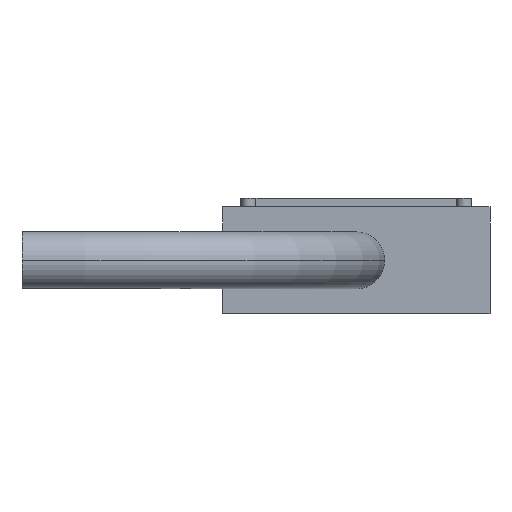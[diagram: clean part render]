
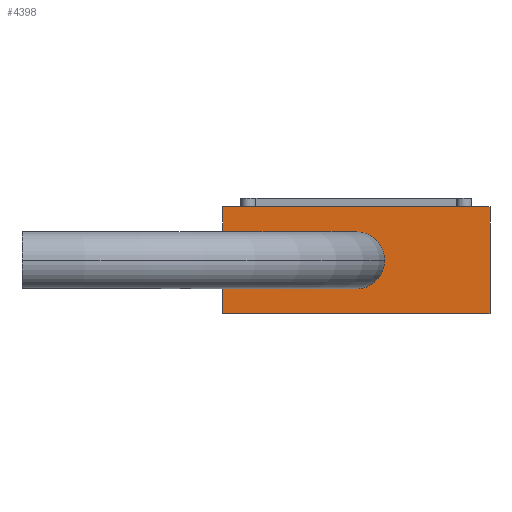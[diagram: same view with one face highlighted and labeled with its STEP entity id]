
A CAD part, front view. The second image highlights one B-rep face of the part: STEP entity #4398.
In plain terms, the highlighted planar face has unit normal (0, -1, 0).
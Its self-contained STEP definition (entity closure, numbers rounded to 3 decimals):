
#79 = ORIENTED_EDGE ( 'NONE', *, *, #4466, .F. ) ;
#80 = ORIENTED_EDGE ( 'NONE', *, *, #4508, .F. ) ;
#81 = ORIENTED_EDGE ( 'NONE', *, *, #4247, .F. ) ;
#82 = ORIENTED_EDGE ( 'NONE', *, *, #4513, .F. ) ;
#83 = ORIENTED_EDGE ( 'NONE', *, *, #4465, .F. ) ;
#84 = ORIENTED_EDGE ( 'NONE', *, *, #4467, .F. ) ;
#367 = EDGE_LOOP ( 'NONE', ( #83, #81 ) ) ;
#368 = EDGE_LOOP ( 'NONE', ( #84, #80, #79, #82 ) ) ;
#532 = VERTEX_POINT ( 'NONE', #1140 ) ;
#533 = VERTEX_POINT ( 'NONE', #1141 ) ;
#620 = VERTEX_POINT ( 'NONE', #1228 ) ;
#621 = VERTEX_POINT ( 'NONE', #1229 ) ;
#624 = VERTEX_POINT ( 'NONE', #1232 ) ;
#625 = VERTEX_POINT ( 'NONE', #1233 ) ;
#1140 = CARTESIAN_POINT ( 'NONE',  ( 4.25, 0., 0. ) ) ;
#1141 = CARTESIAN_POINT ( 'NONE',  ( -4.25, 0., 0. ) ) ;
#1228 = CARTESIAN_POINT ( 'NONE',  ( 20., 0., -8. ) ) ;
#1229 = CARTESIAN_POINT ( 'NONE',  ( -20., 0., -8. ) ) ;
#1232 = CARTESIAN_POINT ( 'NONE',  ( -20., 0., 8. ) ) ;
#1233 = CARTESIAN_POINT ( 'NONE',  ( 20., 0., 8. ) ) ;
#1875 = CARTESIAN_POINT ( 'NONE',  ( 0., 0., 0. ) ) ;
#1876 = DIRECTION ( 'NONE',  ( 0., -1., 0. ) ) ;
#1877 = DIRECTION ( 'NONE',  ( 0., 0., -1. ) ) ;
#1998 = VECTOR ( 'NONE', #3479, 1000. ) ;
#2024 = AXIS2_PLACEMENT_3D ( 'NONE', #3440, #3471, #3472 ) ;
#2084 = VECTOR ( 'NONE', #3602, 1000. ) ;
#2085 = VECTOR ( 'NONE', #3617, 1000. ) ;
#2170 = VECTOR ( 'NONE', #3476, 1000. ) ;
#2269 = FACE_BOUND ( 'NONE', #367, .T. ) ;
#2278 = AXIS2_PLACEMENT_3D ( 'NONE', #3253, #3254, #3255 ) ;
#2279 = FACE_OUTER_BOUND ( 'NONE', #368, .T. ) ;
#2610 = AXIS2_PLACEMENT_3D ( 'NONE', #1875, #1876, #1877 ) ;
#3252 = PLANE ( 'NONE',  #2278 ) ;
#3253 = CARTESIAN_POINT ( 'NONE',  ( 0., 0., 0. ) ) ;
#3254 = DIRECTION ( 'NONE',  ( 0., -1., 0. ) ) ;
#3255 = DIRECTION ( 'NONE',  ( 0., 0., -1. ) ) ;
#3440 = CARTESIAN_POINT ( 'NONE',  ( 0., 0., 0. ) ) ;
#3471 = DIRECTION ( 'NONE',  ( 0., -1., 0. ) ) ;
#3472 = DIRECTION ( 'NONE',  ( 0., 0., -1. ) ) ;
#3474 = LINE ( 'NONE', #3475, #2170 ) ;
#3475 = CARTESIAN_POINT ( 'NONE',  ( -20., 0., 8. ) ) ;
#3476 = DIRECTION ( 'NONE',  ( 0., 0., 1. ) ) ;
#3477 = LINE ( 'NONE', #3478, #1998 ) ;
#3478 = CARTESIAN_POINT ( 'NONE',  ( 20., 0., 8. ) ) ;
#3479 = DIRECTION ( 'NONE',  ( 0., 0., -1. ) ) ;
#3600 = LINE ( 'NONE', #3601, #2084 ) ;
#3601 = CARTESIAN_POINT ( 'NONE',  ( -20., 0., 8. ) ) ;
#3602 = DIRECTION ( 'NONE',  ( 1., 0., 0. ) ) ;
#3615 = LINE ( 'NONE', #3616, #2085 ) ;
#3616 = CARTESIAN_POINT ( 'NONE',  ( -20., 0., -8. ) ) ;
#3617 = DIRECTION ( 'NONE',  ( -1., 0., 0. ) ) ;
#4030 = CIRCLE ( 'NONE', #2024, 4.25 ) ;
#4058 = CIRCLE ( 'NONE', #2610, 4.25 ) ;
#4247 = EDGE_CURVE ( 'NONE', #532, #533, #4058, .T. ) ;
#4398 = ADVANCED_FACE ( 'NONE', ( #2269, #2279 ), #3252, .T. ) ;
#4465 = EDGE_CURVE ( 'NONE', #533, #532, #4030, .T. ) ;
#4466 = EDGE_CURVE ( 'NONE', #621, #624, #3474, .T. ) ;
#4467 = EDGE_CURVE ( 'NONE', #625, #620, #3477, .T. ) ;
#4508 = EDGE_CURVE ( 'NONE', #624, #625, #3600, .T. ) ;
#4513 = EDGE_CURVE ( 'NONE', #620, #621, #3615, .T. ) ;
